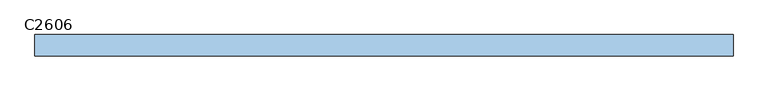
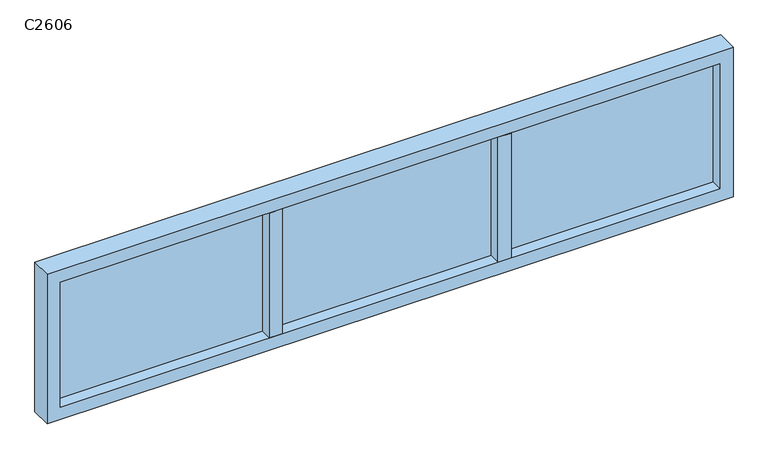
"""IFC4 building model written with IfcOpenShell, lengths in millimetres: window geometry, 组合窗-三列1 : C2606."""

from ifc_helpers import new_model, si_unit, frame, origin, place, context, project, spatial, polyline, outline, extrude, source, transform, mapped, element, save


def c2606_43b70124(model_context):
    return source(origin(), model_context, "Body", "SweptSolid", [
        extrude(outline(polyline([(408.3333333, 35.0), (458.3333333, 35.0), (458.3333333, -45.0), (408.3333333, -45.0), (408.3333333, 35.0)])), frame((0.0, 0.0, 650.0), z_axis=(0.0, 0.0, 1.0), x_axis=(1.0, 0.0, 0.0)), (0.0, 0.0, 1.0), 500.0),
        extrude(outline(polyline([(-458.3333333, 35.0), (-408.3333333, 35.0), (-408.3333333, -45.0), (-458.3333333, -45.0), (-458.3333333, 35.0)])), frame((0.0, 0.0, 650.0), z_axis=(0.0, 0.0, 1.0), x_axis=(1.0, 0.0, 0.0)), (0.0, 0.0, 1.0), 500.0),
        extrude(outline(polyline([(1200.0, -1300.0), (600.0, -1300.0), (600.0, 1300.0), (1200.0, 1300.0), (1200.0, -1300.0)]), holes=[polyline([(1150.0, 1250.0), (650.0, 1250.0), (650.0, -1250.0), (1150.0, -1250.0), (1150.0, 1250.0)])]), frame((0.0, -45.0, 0.0), z_axis=(0.0, 1.0, 0.0), x_axis=(0.0, 0.0, 1.0)), (0.0, 0.0, 1.0), 80.0),
        extrude(outline(polyline([(1250.0, -1.0), (-1250.0, -1.0), (-1250.0, 1.0), (1250.0, 1.0), (1250.0, -1.0)])), frame((0.0, 0.0, 650.0), z_axis=(0.0, 0.0, 1.0), x_axis=(1.0, 0.0, 0.0)), (0.0, 0.0, 1.0), 500.0),
    ])


if __name__ == "__main__":
    model = new_model("IFC4")
    model_context = context("Model", 3, world=origin())
    ifc_project = project(units=[si_unit("LENGTHUNIT", "METRE", prefix="MILLI")], contexts=[model_context])
    site = spatial("IfcSite", under=ifc_project)
    building = spatial("IfcBuilding", under=site)
    placement = place(None, origin())
    c2606_shape = c2606_43b70124(model_context)
    element("IfcWindow", 1, ObjectType="组合窗-三列1 : C2606", at=placement, inside=building, context=model_context, shape_type="MappedRepresentation", body=[
        mapped(c2606_shape, transform((0.0, 0.0, 0.0), x_axis=(1.0, 0.0, 0.0), y_axis=(0.0, 1.0, 0.0), z_axis=(0.0, 0.0, 1.0))),
    ])
    save(model, "model.ifc")
